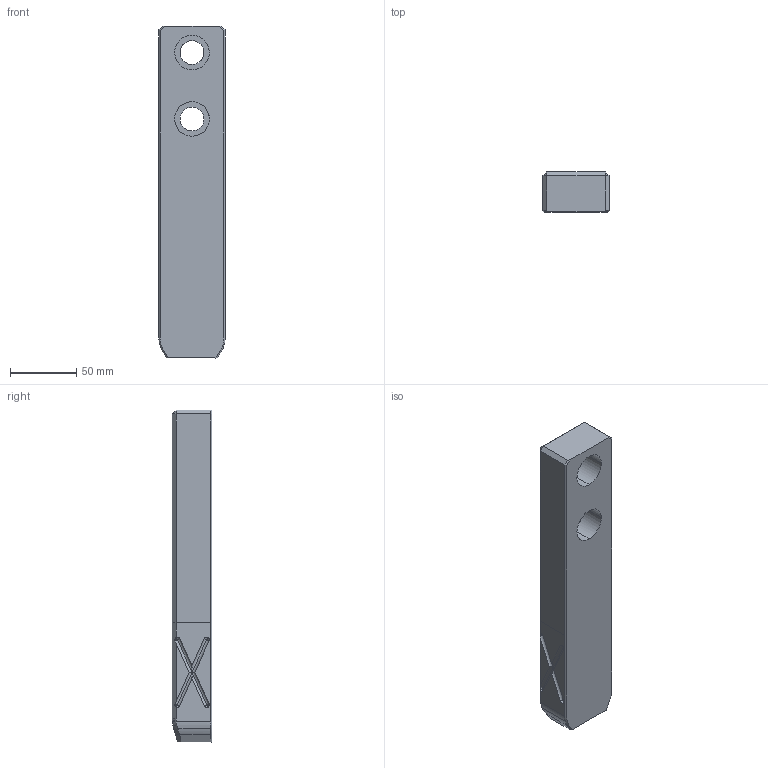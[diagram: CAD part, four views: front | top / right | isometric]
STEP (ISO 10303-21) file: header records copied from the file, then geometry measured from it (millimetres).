
FILE_DESCRIPTION(('CATIA V5 STEP Exchange'),'2;1');
FILE_NAME('D:\temp\color-modify-100929\GWB_6644-6654_R00\3d_gwb50-90-250_6645_r00.stp','2010-09-29T05:17:47+00:00',('none'),('none'),'CATIA Version 5 Release 18 SP 5 (IN-10)','CATIA V5 STEP AP214','none');
FILE_SCHEMA(('AUTOMOTIVE_DESIGN { 1 0 10303 214 1 1 1 1 }'));
Length unit declared in the file: millimetre
Products named in the file (1): GWB50-90-250
Bounding box: 50 x 30 x 250 mm (x, y, z)
Volume: 338053.3 mm3; surface area: 46194.7 mm2
Topology: 1 solids, 1 shells, 122 faces, 324 edges, 184 vertices
Faces by surface type: cylinder 50, plane 36, revolution 24, cone 8, bspline 4
Entity records: 4477 total; most frequent: CARTESIAN_POINT 1848, ORIENTED_EDGE 600, DIRECTION 391, EDGE_CURVE 300, VERTEX_POINT 184, B_SPLINE_CURVE_WITH_KNOTS 145, VECTOR 140, LINE 140
